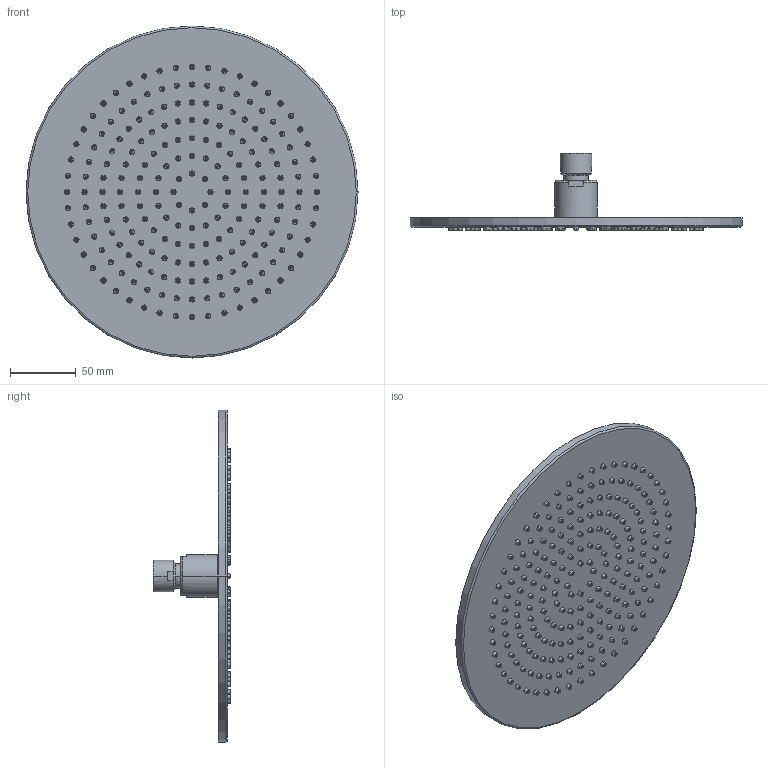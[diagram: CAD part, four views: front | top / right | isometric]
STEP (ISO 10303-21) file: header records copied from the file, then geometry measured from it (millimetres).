
FILE_DESCRIPTION((''),'2;1');
FILE_NAME('90716_SW0001','2021-06-17T16:52:41',('carloff'),(''),'CREO PARAMETRIC BY PTC INC, 2018100','CREO PARAMETRIC BY PTC INC, 2018100','');
FILE_SCHEMA(('CONFIG_CONTROL_DESIGN'));
Length unit declared in the file: millimetre
Products named in the file (1): 90716_SW0001
Bounding box: 252 x 58.5 x 252 mm (x, y, z)
Volume: 246653.6 mm3; surface area: 216989.8 mm2
Topology: 1 solids, 1 shells, 1799 faces, 3894 edges, 2592 vertices
Faces by surface type: cylinder 640, plane 579, cone 570, torus 10
Entity records: 50498 total; most frequent: DIRECTION 9642, CARTESIAN_POINT 8913, ORIENTED_EDGE 7788, AXIS2_PLACEMENT_3D 4099, EDGE_CURVE 3894, VERTEX_POINT 2592, CIRCLE 2300, EDGE_LOOP 2294
